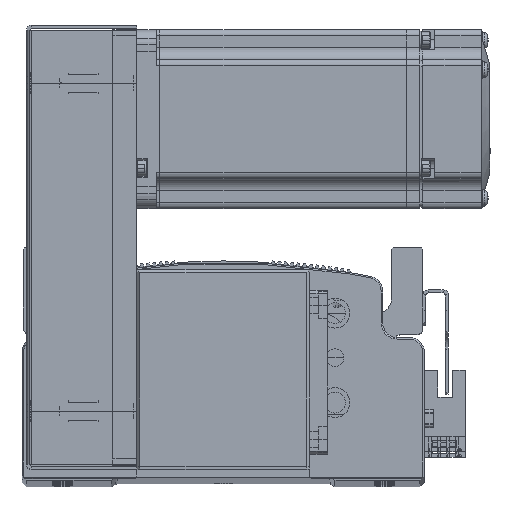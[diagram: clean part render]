
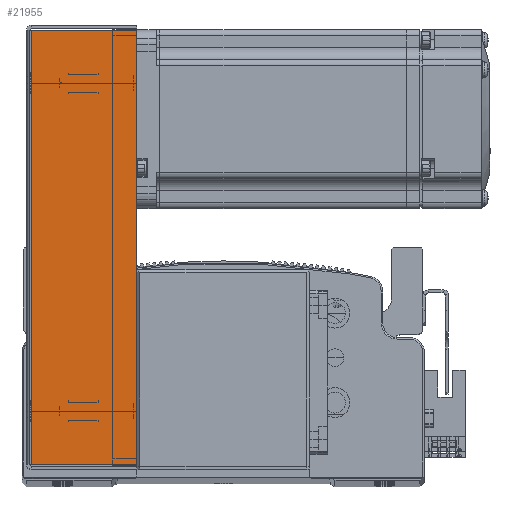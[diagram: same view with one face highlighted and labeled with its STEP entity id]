
A CAD part, top view. The second image highlights one B-rep face of the part: STEP entity #21955.
In plain terms, the highlighted planar face has unit normal (0, 0, 1).
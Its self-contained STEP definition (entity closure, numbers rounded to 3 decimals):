
#3943 = DIRECTION ( 'NONE',  ( 0., 1., 0. ) ) ;
#3948 = CARTESIAN_POINT ( 'NONE',  ( 72.793, 0., 34.5 ) ) ;
#4022 = DIRECTION ( 'NONE',  ( -1., 0., 0. ) ) ;
#4043 = CARTESIAN_POINT ( 'NONE',  ( 0., 36., 34.5 ) ) ;
#4422 = DIRECTION ( 'NONE',  ( 0., 1., 0. ) ) ;
#4462 = CARTESIAN_POINT ( 'NONE',  ( -74.5, 0.737, 34.5 ) ) ;
#4483 = CARTESIAN_POINT ( 'NONE',  ( -72.793, 0., 34.5 ) ) ;
#4487 = DIRECTION ( 'NONE',  ( -1., 0., 0. ) ) ;
#7270 = CARTESIAN_POINT ( 'NONE',  ( -72.793, 0.737, 34.5 ) ) ;
#7275 = CARTESIAN_POINT ( 'NONE',  ( 72.793, 0.737, 34.5 ) ) ;
#7335 = CARTESIAN_POINT ( 'NONE',  ( -72.793, 36., 34.5 ) ) ;
#7337 = CARTESIAN_POINT ( 'NONE',  ( 72.793, 36., 34.5 ) ) ;
#21232 = ORIENTED_EDGE ( 'NONE', *, *, #55472, .T. ) ;
#21246 = ORIENTED_EDGE ( 'NONE', *, *, #55552, .F. ) ;
#21273 = ORIENTED_EDGE ( 'NONE', *, *, #55489, .T. ) ;
#21289 = ORIENTED_EDGE ( 'NONE', *, *, #55547, .F. ) ;
#21955 = ADVANCED_FACE ( 'NONE', ( #61805 ), #61442, .F. ) ;
#24918 = VECTOR ( 'NONE', #4022, 1000. ) ;
#24928 = LINE ( 'NONE', #4043, #24918 ) ;
#24941 = LINE ( 'NONE', #3948, #24976 ) ;
#24976 = VECTOR ( 'NONE', #3943, 1000. ) ;
#25046 = LINE ( 'NONE', #4483, #25049 ) ;
#25049 = VECTOR ( 'NONE', #4422, 1000. ) ;
#25097 = LINE ( 'NONE', #4462, #25108 ) ;
#25108 = VECTOR ( 'NONE', #4487, 1000. ) ;
#52379 = EDGE_LOOP ( 'NONE', ( #21246, #21232, #21273, #21289 ) ) ;
#55472 = EDGE_CURVE ( 'NONE', #58070, #58095, #24941, .T. ) ;
#55489 = EDGE_CURVE ( 'NONE', #58095, #58141, #24928, .T. ) ;
#55547 = EDGE_CURVE ( 'NONE', #58060, #58141, #25046, .T. ) ;
#55552 = EDGE_CURVE ( 'NONE', #58070, #58060, #25097, .T. ) ;
#58060 = VERTEX_POINT ( 'NONE', #7270 ) ;
#58070 = VERTEX_POINT ( 'NONE', #7275 ) ;
#58095 = VERTEX_POINT ( 'NONE', #7337 ) ;
#58141 = VERTEX_POINT ( 'NONE', #7335 ) ;
#61326 = DIRECTION ( 'NONE',  ( 0., 0., -1. ) ) ;
#61382 = CARTESIAN_POINT ( 'NONE',  ( 0., 0., 34.5 ) ) ;
#61390 = DIRECTION ( 'NONE',  ( -1., 0., 0. ) ) ;
#61442 = PLANE ( 'NONE',  #66869 ) ;
#61805 = FACE_OUTER_BOUND ( 'NONE', #52379, .T. ) ;
#66869 = AXIS2_PLACEMENT_3D ( 'NONE', #61382, #61326, #61390 ) ;
